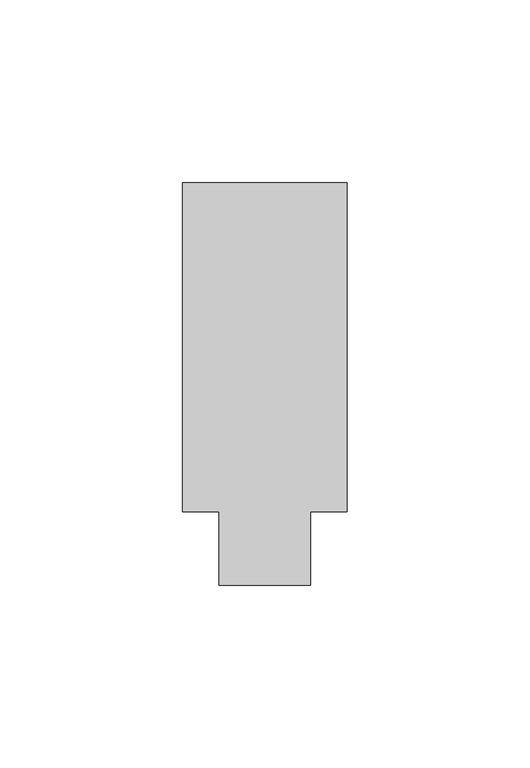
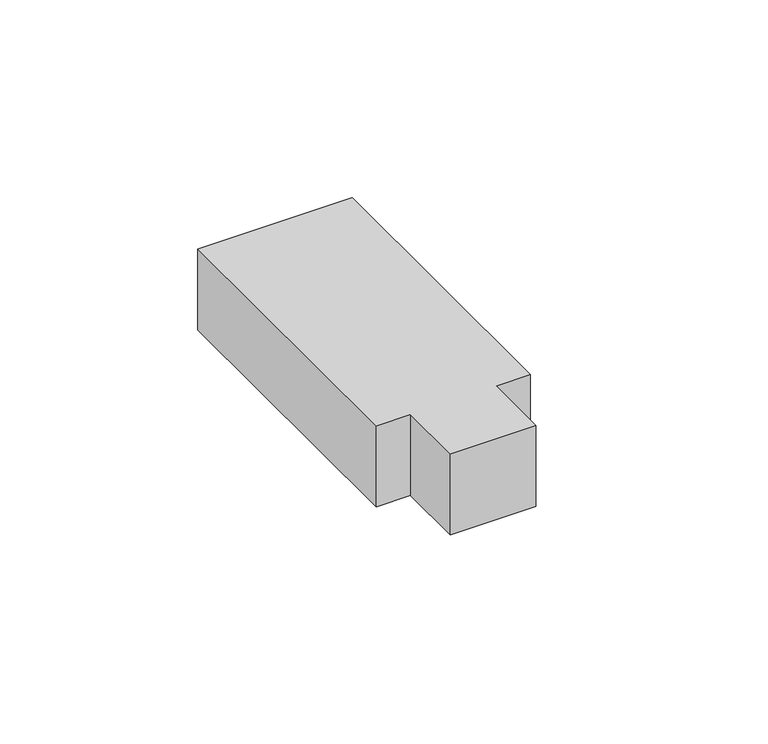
"""IFC4 building model written with IfcOpenShell, lengths in millimetres: cable carrier fitting geometry, КНС_ОтводОтКоробовПлинтусногоТипаККоробкам_ILF_DKC : Отвод узкий к коробкам."""

from ifc_helpers import new_model, si_unit, frame, origin, place, context, project, spatial, polyline, outline, extrude, faceted_brep, source, transform, mapped, element, save


def cable_carrier_fitting_94e5b95d(model_context):
    return source(origin(), model_context, "Body", "SolidModel", [
        extrude(outline(polyline([(-12.5, -45.0), (-22.5, -45.0), (-22.5, 45.0), (22.5, 45.0), (22.5, -45.0), (12.5, -45.0), (12.5, -65.0), (-12.5, -65.0), (-12.5, -45.0)])), frame((0.0, 0.0, -12.5), z_axis=(0.0, 0.0, 1.0), x_axis=(1.0, 0.0, 0.0)), (0.0, 0.0, 1.0), 25.0),
        faceted_brep([(22.5, 42.5, -10.0), (-22.5, 42.5, -10.0), (-22.5, -42.5, -10.0), (-10.0, -42.5, -10.0), (-10.0, -65.0, -10.0), (10.0, -65.0, -10.0), (10.0, -42.5, -10.0), (22.5, -42.5, -10.0), (22.5, 45.0, -12.5), (22.5, -45.0, -12.5), (12.5, -45.0, -12.5), (12.5, -65.0, -12.5), (-12.5, -65.0, -12.5), (-12.5, -45.0, -12.5), (-22.5, -45.0, -12.5), (-22.5, 45.0, -12.5), (22.5, 45.0, 12.5), (22.5, 42.5, 12.5), (22.5, -42.5, 12.5), (22.5, -45.0, 12.5), (12.5, -45.0, 12.5), (12.5, -65.0, 12.5), (10.0, -65.0, 12.5), (-10.0, -65.0, 12.5), (-12.5, -65.0, 12.5), (-12.5, -45.0, 12.5), (-22.5, -45.0, 12.5), (-22.5, -42.5, 12.5), (-22.5, 42.5, 12.5), (-22.5, 45.0, 12.5), (10.0, -42.5, 12.5), (-10.0, -42.5, 12.5)], [[[0, 1, 2, 3, 4, 5, 6, 7]], [[8, 9, 10, 11, 12, 13, 14, 15]], [[8, 16, 17, 0, 7, 18, 19, 9]], [[19, 20, 10, 9]], [[20, 21, 11, 10]], [[21, 22, 5, 4, 23, 24, 12, 11]], [[24, 25, 13, 12]], [[25, 26, 14, 13]], [[26, 27, 2, 1, 28, 29, 15, 14]], [[29, 16, 8, 15]], [[20, 19, 18, 30, 22, 21]], [[25, 24, 23, 31, 27, 26]], [[29, 28, 17, 16]], [[31, 3, 2, 27]], [[23, 4, 3, 31]], [[30, 6, 5, 22]], [[18, 7, 6, 30]], [[28, 1, 0, 17]]]),
    ])


if __name__ == "__main__":
    model = new_model("IFC4")
    model_context = context("Model", 3, world=origin())
    ifc_project = project(units=[si_unit("LENGTHUNIT", "METRE", prefix="MILLI")], contexts=[model_context])
    site = spatial("IfcSite", under=ifc_project)
    building = spatial("IfcBuilding", under=site)
    placement = place(None, origin())
    cable_carrier_fitting_shape = cable_carrier_fitting_94e5b95d(model_context)
    element("IfcCableCarrierFitting", 1, ObjectType="КНС_ОтводОтКоробовПлинтусногоТипаККоробкам_ILF_DKC : Отвод узкий к коробкам", at=placement, inside=building, context=model_context, shape_type="MappedRepresentation", body=[
        mapped(cable_carrier_fitting_shape, transform((0.0, 0.0, 0.0), x_axis=(1.0, 0.0, 0.0), y_axis=(0.0, 1.0, 0.0), z_axis=(0.0, 0.0, 1.0))),
    ])
    save(model, "model.ifc")
